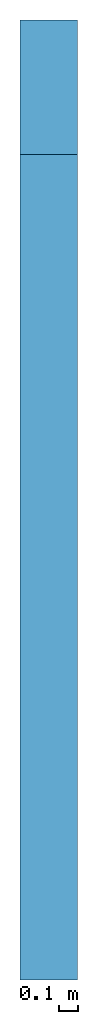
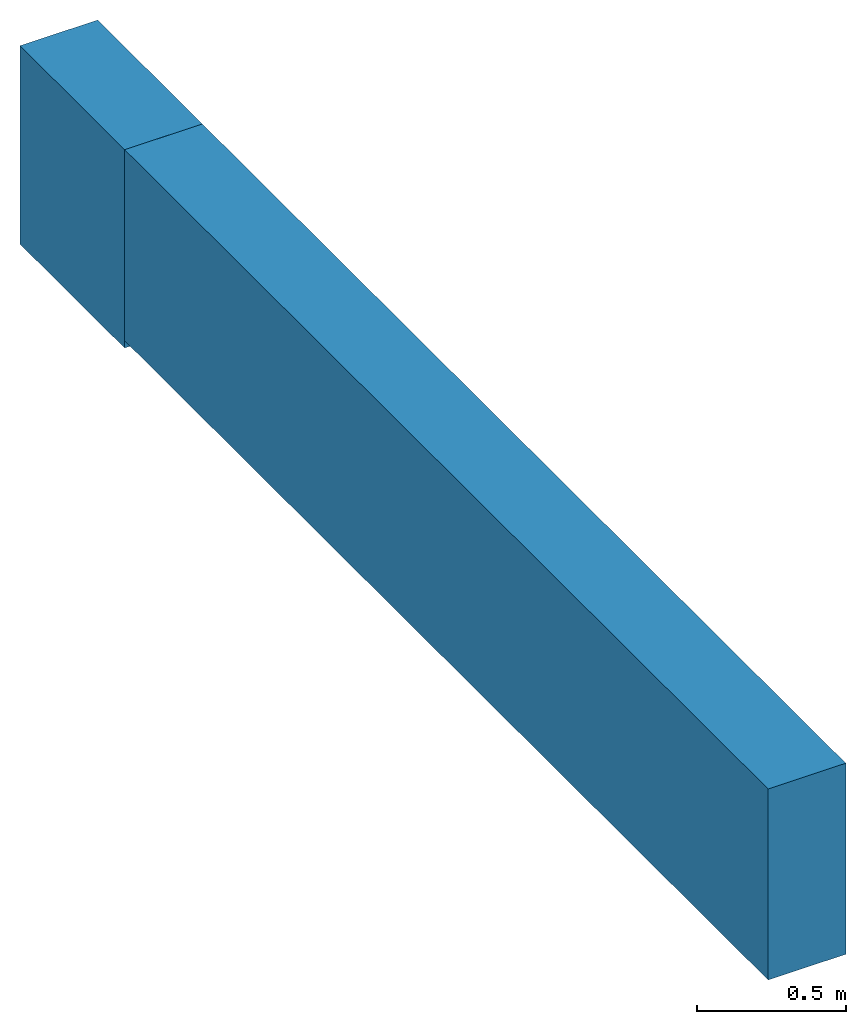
# One storey: 2 walls.
"""IFC2X3 building model written with IfcOpenShell, lengths in millimetres."""

from ifc_helpers import new_model, entity, si_unit, converted_unit, derived_unit, direction, frame, origin_with_axes, place, context, subcontext, project, spatial, faceted_brep, material, type_object, element, save


model = new_model("IFC2X3")

# Units and contexts
model_context = context("Model", 3, precision=0.01, world=frame((0.0, 4.29681676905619e-09, 0.0)), true_north=direction((4.01073788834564e-13, 1.0)))
plan_context = context("Plan", 3, precision=0.01, world=frame((0.0, 4.29681676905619e-09, 0.0)), true_north=direction((4.01073788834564e-13, 1.0)))
body_context = subcontext(model_context, "Body", "Model", "MODEL_VIEW")
ifc_project = project(units=[converted_unit("PLANEANGLEUNIT", "DEGREE", entity("IfcPositiveLengthMeasure", 0.0174532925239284), si_unit("PLANEANGLEUNIT", "RADIAN"), dimensions=[0, 0, 0, 0, 0, 0, 0]), si_unit("AREAUNIT", "SQUARE_METRE"), si_unit("LENGTHUNIT", "METRE", prefix="MILLI"), si_unit("MASSUNIT", "GRAM", prefix="KILO"), si_unit("POWERUNIT", "WATT"), si_unit("PRESSUREUNIT", "PASCAL"), si_unit("FORCEUNIT", "NEWTON", prefix="KILO"), si_unit("ELECTRICCURRENTUNIT", "AMPERE"), si_unit("THERMODYNAMICTEMPERATUREUNIT", "DEGREE_CELSIUS"), si_unit("TIMEUNIT", "SECOND"), si_unit("VOLUMEUNIT", "CUBIC_METRE"), derived_unit("LINEARVELOCITYUNIT", [(si_unit("LENGTHUNIT", "METRE"), 1), (si_unit("TIMEUNIT", "SECOND"), -1)]), derived_unit("VOLUMETRICFLOWRATEUNIT", [(si_unit("VOLUMEUNIT", "CUBIC_METRE"), 1), (si_unit("TIMEUNIT", "SECOND"), -1)]), derived_unit("THERMALTRANSMITTANCEUNIT", [(si_unit("POWERUNIT", "WATT"), 1), (si_unit("THERMODYNAMICTEMPERATUREUNIT", "KELVIN"), -1), (si_unit("AREAUNIT", "SQUARE_METRE"), -1)])], contexts=[model_context, plan_context])

# Site, building, storey
site_placement = place(None, frame((0.0, -4.29681676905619e-09, 0.0), z_axis=(0.0, 0.0, 1.0), x_axis=(1.0, 0.0, 0.0)))
site = spatial("IfcSite", under=ifc_project, at=site_placement, Name="Gardermoen", CompositionType="ELEMENT")
building_placement = place(site_placement, frame((0.0, 4.29681676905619e-09, 0.0), z_axis=(0.0, 0.0, 1.0), x_axis=(1.0, 0.0, 0.0)))
building = spatial("IfcBuilding", under=site, at=building_placement, Name="TS", CompositionType="ELEMENT")
storey_placement = place(building_placement, origin_with_axes())
storey = spatial("IfcBuildingStorey", under=building, at=storey_placement, Name="A", CompositionType="ELEMENT", Elevation=0.0)

# Walls
ifc_material = material(Name="CONCRETE/C35/45")
wall_type_1 = type_object("IfcWallType", Name="810*300", PredefinedType="NOTDEFINED")
wall_1_placement = place(storey_placement, frame((519999.992655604, 405149.998060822, 203375.0), z_axis=(0.0, 0.0, 1.0), x_axis=(0.0, 1.0, 0.0)))
element("IfcWall", 1, at=wall_1_placement, inside=storey, type_object=wall_type_1, material=ifc_material, Name="PLASSTØPTVEGG", ObjectType="810*300", context=body_context, shape_type="Brep", body=[
    faceted_brep([(2.96859070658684e-09, 150.000000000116, -405.0), (2.96859070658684e-09, 150.000000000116, 405.0), (700.004577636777, 150.0, 405.0), (700.004577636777, 150.0, -405.0), (-3.14321368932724e-09, -149.999999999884, 405.0), (700.004577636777, -150.0, 405.0), (-3.14321368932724e-09, -149.999999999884, -405.0), (700.004577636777, -150.0, -405.0)], [[[0, 1, 2, 3]], [[1, 4, 5, 2]], [[4, 6, 7, 5]], [[6, 0, 3, 7]], [[5, 7, 3, 2]], [[6, 4, 1, 0]]]),
])
wall_type_2 = type_object("IfcWallType", Name="8880*300", PredefinedType="NOTDEFINED")
wall_2_placement = place(storey_placement, frame((519999.992655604, 396850.002638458, 199340.0), z_axis=(0.0, 0.0, 1.0), x_axis=(0.0, 1.0, 0.0)))
element("IfcWall", 2, at=wall_2_placement, inside=storey, type_object=wall_type_2, Name="PLASSTØPTVEGG", ObjectType="8880*300", context=body_context, shape_type="Brep", body=[
    faceted_brep([(3995.67402049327, 150.0, 4440.0), (3995.67402049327, 150.0, 3660.0), (8299.99542236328, 150.0, 3660.0), (8299.99542236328, 150.0, 4440.0), (3995.67402049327, -150.0, 4440.0), (8299.99542236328, -150.0, 4440.0), (8299.99542236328, -150.0, 3660.0), (3995.67402049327, -150.0, 3660.0)], [[[0, 1, 2, 3]], [[4, 0, 3, 5]], [[6, 7, 4, 5]], [[2, 6, 5, 3]], [[1, 0, 4, 7]], [[7, 6, 2, 1]]], orient=[[False], [False], [False], [False], [False], [False]]),
])

save(model, "model.ifc")
